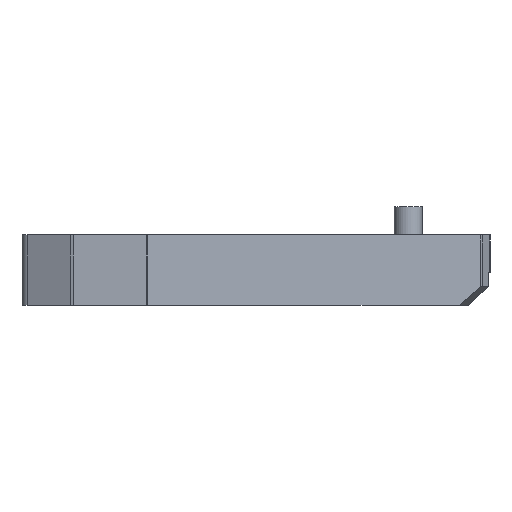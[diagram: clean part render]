
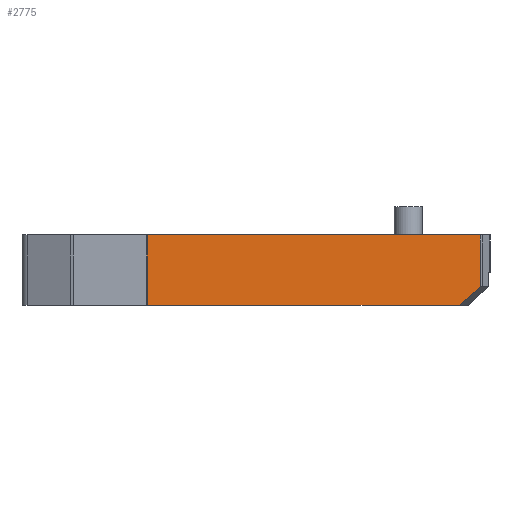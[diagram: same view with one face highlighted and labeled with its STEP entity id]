
A CAD part, left-side view. The second image highlights one B-rep face of the part: STEP entity #2775.
In plain terms, the highlighted planar face has unit normal (-0.997, -0.084, 0).
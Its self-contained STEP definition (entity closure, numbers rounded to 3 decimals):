
#106=PLANE('',#3061);
#328=FACE_OUTER_BOUND('',#480,.T.);
#480=EDGE_LOOP('',(#2550,#2551,#2552,#2553,#2554));
#555=LINE('',#3905,#773);
#577=LINE('',#4048,#795);
#686=LINE('',#4849,#904);
#692=LINE('',#4862,#910);
#708=LINE('',#4905,#926);
#773=VECTOR('',#3126,10.);
#795=VECTOR('',#3214,10.);
#904=VECTOR('',#3569,10.);
#910=VECTOR('',#3583,10.);
#926=VECTOR('',#3635,10.);
#1123=VERTEX_POINT('',#3902);
#1124=VERTEX_POINT('',#3904);
#1177=VERTEX_POINT('',#4045);
#1178=VERTEX_POINT('',#4047);
#1326=VERTEX_POINT('',#4845);
#1396=EDGE_CURVE('',#1123,#1124,#555,.T.);
#1453=EDGE_CURVE('',#1177,#1178,#577,.T.);
#1669=EDGE_CURVE('',#1326,#1178,#686,.T.);
#1676=EDGE_CURVE('',#1124,#1177,#692,.T.);
#1697=EDGE_CURVE('',#1326,#1123,#708,.T.);
#2550=ORIENTED_EDGE('',*,*,#1676,.F.);
#2551=ORIENTED_EDGE('',*,*,#1396,.F.);
#2552=ORIENTED_EDGE('',*,*,#1697,.F.);
#2553=ORIENTED_EDGE('',*,*,#1669,.T.);
#2554=ORIENTED_EDGE('',*,*,#1453,.F.);
#2775=ADVANCED_FACE('',(#328),#106,.T.);
#3061=AXIS2_PLACEMENT_3D('',#5095,#3804,#3805);
#3126=DIRECTION('',(-0.084,0.996,0.));
#3214=DIRECTION('',(0.084,-0.996,0.));
#3569=DIRECTION('',(0.,0.,1.));
#3583=DIRECTION('',(0.,0.,1.));
#3635=DIRECTION('',(-0.064,0.756,-0.652));
#3804=DIRECTION('center_axis',(-0.996,-0.084,0.));
#3805=DIRECTION('ref_axis',(0.084,-0.996,0.));
#3902=CARTESIAN_POINT('',(-29.382,5.133,-7.5));
#3904=CARTESIAN_POINT('',(-34.988,71.72,-7.5));
#3905=CARTESIAN_POINT('',(-35.,71.866,-7.5));
#4045=CARTESIAN_POINT('',(-34.988,71.72,7.5));
#4047=CARTESIAN_POINT('',(-29.,0.6,7.5));
#4048=CARTESIAN_POINT('',(-35.,71.866,7.5));
#4845=CARTESIAN_POINT('',(-29.,0.6,-3.59));
#4849=CARTESIAN_POINT('',(-29.,0.6,0.));
#4862=CARTESIAN_POINT('',(-34.988,71.72,0.));
#4905=CARTESIAN_POINT('',(-30.698,20.772,-20.988));
#5095=CARTESIAN_POINT('Origin',(-35.,71.866,0.));
